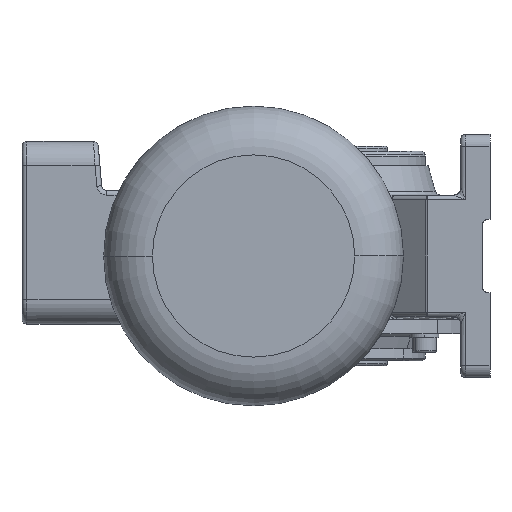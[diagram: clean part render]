
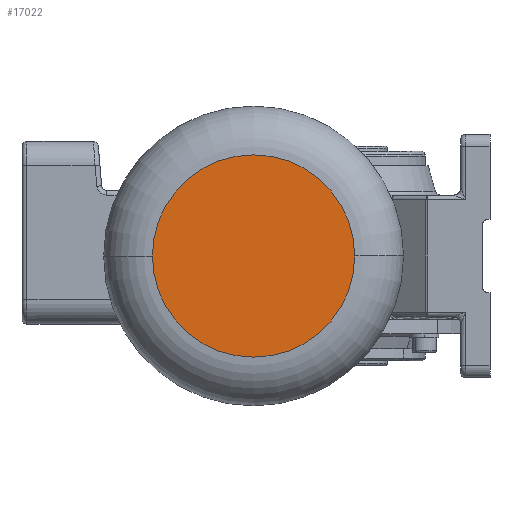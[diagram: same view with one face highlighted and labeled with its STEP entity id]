
A CAD part, left-side view. The second image highlights one B-rep face of the part: STEP entity #17022.
In plain terms, the highlighted planar face has unit normal (-1, 0, 0).
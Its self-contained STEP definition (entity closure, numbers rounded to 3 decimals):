
#22 = DIRECTION ( 'NONE',  ( 0., 1., 0. ) ) ;
#932 = VERTEX_POINT ( 'NONE', #10071 ) ;
#2890 = DIRECTION ( 'NONE',  ( 0., 1., 0. ) ) ;
#3959 = EDGE_LOOP ( 'NONE', ( #18111, #5625 ) ) ;
#4024 = FACE_OUTER_BOUND ( 'NONE', #3959, .T. ) ;
#5446 = CARTESIAN_POINT ( 'NONE',  ( -409.993, 22.941, 0. ) ) ;
#5625 = ORIENTED_EDGE ( 'NONE', *, *, #10315, .T. ) ;
#7721 = VERTEX_POINT ( 'NONE', #5446 ) ;
#9189 = DIRECTION ( 'NONE',  ( -1., 0., 0. ) ) ;
#9254 = CARTESIAN_POINT ( 'NONE',  ( -409.993, 64.441, 0. ) ) ;
#10071 = CARTESIAN_POINT ( 'NONE',  ( -409.993, 105.941, 0. ) ) ;
#10315 = EDGE_CURVE ( 'NONE', #7721, #932, #19084, .T. ) ;
#10403 = AXIS2_PLACEMENT_3D ( 'NONE', #9254, #15265, #2890 ) ;
#10733 = AXIS2_PLACEMENT_3D ( 'NONE', #12556, #9189, #18133 ) ;
#11854 = CIRCLE ( 'NONE', #10733, 41.5 ) ;
#12556 = CARTESIAN_POINT ( 'NONE',  ( -409.993, 64.441, 0. ) ) ;
#14279 = AXIS2_PLACEMENT_3D ( 'NONE', #19916, #21518, #22 ) ;
#15265 = DIRECTION ( 'NONE',  ( 1., 0., 0. ) ) ;
#15653 = EDGE_CURVE ( 'NONE', #932, #7721, #11854, .T. ) ;
#16682 = PLANE ( 'NONE',  #10403 ) ;
#17022 = ADVANCED_FACE ( 'NONE', ( #4024 ), #16682, .F. ) ;
#18111 = ORIENTED_EDGE ( 'NONE', *, *, #15653, .T. ) ;
#18133 = DIRECTION ( 'NONE',  ( 0., 1., 0. ) ) ;
#19084 = CIRCLE ( 'NONE', #14279, 41.5 ) ;
#19916 = CARTESIAN_POINT ( 'NONE',  ( -409.993, 64.441, 0. ) ) ;
#21518 = DIRECTION ( 'NONE',  ( -1., 0., 0. ) ) ;
